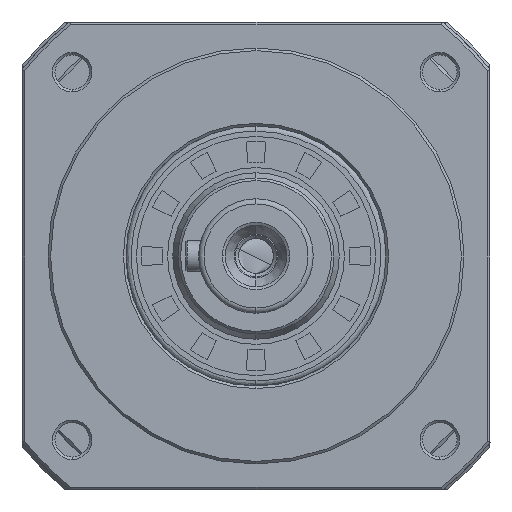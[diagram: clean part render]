
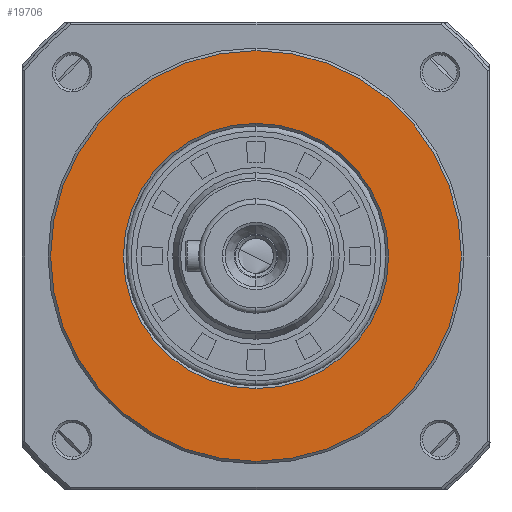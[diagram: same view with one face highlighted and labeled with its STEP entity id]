
A CAD part, left-side view. The second image highlights one B-rep face of the part: STEP entity #19706.
In plain terms, the highlighted planar face has unit normal (-1, 0, 0).
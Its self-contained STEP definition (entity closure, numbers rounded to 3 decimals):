
#513 = DIRECTION ( 'NONE',  ( 1., 0., 0. ) ) ;
#1174 = ORIENTED_EDGE ( 'NONE', *, *, #41199, .F. ) ;
#1571 = EDGE_CURVE ( 'NONE', #35148, #30651, #15567, .T. ) ;
#1646 = AXIS2_PLACEMENT_3D ( 'NONE', #51004, #43278, #12940 ) ;
#3337 = EDGE_LOOP ( 'NONE', ( #28568, #93845 ) ) ;
#4349 = FACE_OUTER_BOUND ( 'NONE', #56571, .T. ) ;
#6502 = EDGE_CURVE ( 'NONE', #85295, #100066, #36539, .T. ) ;
#7262 = AXIS2_PLACEMENT_3D ( 'NONE', #84703, #44868, #14886 ) ;
#12940 = DIRECTION ( 'NONE',  ( 0., 0., -1. ) ) ;
#14886 = DIRECTION ( 'NONE',  ( 0., 0., -1. ) ) ;
#15567 = CIRCLE ( 'NONE', #97291, 39.5 ) ;
#19359 = CIRCLE ( 'NONE', #7262, 39.5 ) ;
#19465 = CARTESIAN_POINT ( 'NONE',  ( 0., 0., -25.5 ) ) ;
#19706 = ADVANCED_FACE ( 'NONE', ( #22478, #4349 ), #41962, .F. ) ;
#22213 = DIRECTION ( 'NONE',  ( 0., 0., 1. ) ) ;
#22478 = FACE_BOUND ( 'NONE', #3337, .T. ) ;
#26704 = ORIENTED_EDGE ( 'NONE', *, *, #1571, .F. ) ;
#28568 = ORIENTED_EDGE ( 'NONE', *, *, #6502, .T. ) ;
#29376 = CIRCLE ( 'NONE', #30554, 25.5 ) ;
#30554 = AXIS2_PLACEMENT_3D ( 'NONE', #76553, #30610, #22213 ) ;
#30610 = DIRECTION ( 'NONE',  ( 1., 0., 0. ) ) ;
#30651 = VERTEX_POINT ( 'NONE', #89535 ) ;
#35148 = VERTEX_POINT ( 'NONE', #70008 ) ;
#36539 = CIRCLE ( 'NONE', #91097, 25.5 ) ;
#41199 = EDGE_CURVE ( 'NONE', #30651, #35148, #19359, .T. ) ;
#41308 = CARTESIAN_POINT ( 'NONE',  ( 0., 0., 0. ) ) ;
#41962 = PLANE ( 'NONE',  #1646 ) ;
#42291 = DIRECTION ( 'NONE',  ( 0., 0., -1. ) ) ;
#43278 = DIRECTION ( 'NONE',  ( 1., 0., 0. ) ) ;
#43793 = CARTESIAN_POINT ( 'NONE',  ( 0., 0., 25.5 ) ) ;
#44868 = DIRECTION ( 'NONE',  ( 1., 0., 0. ) ) ;
#51004 = CARTESIAN_POINT ( 'NONE',  ( 0., -39.974, 39.974 ) ) ;
#54162 = CARTESIAN_POINT ( 'NONE',  ( 0., 0., 0. ) ) ;
#56571 = EDGE_LOOP ( 'NONE', ( #1174, #26704 ) ) ;
#70008 = CARTESIAN_POINT ( 'NONE',  ( 0., 0., 39.5 ) ) ;
#72376 = DIRECTION ( 'NONE',  ( 1., 0., 0. ) ) ;
#76553 = CARTESIAN_POINT ( 'NONE',  ( 0., 0., 0. ) ) ;
#84703 = CARTESIAN_POINT ( 'NONE',  ( 0., 0., 0. ) ) ;
#85295 = VERTEX_POINT ( 'NONE', #43793 ) ;
#89535 = CARTESIAN_POINT ( 'NONE',  ( 0., 0., -39.5 ) ) ;
#91097 = AXIS2_PLACEMENT_3D ( 'NONE', #54162, #513, #100079 ) ;
#93845 = ORIENTED_EDGE ( 'NONE', *, *, #95090, .T. ) ;
#95090 = EDGE_CURVE ( 'NONE', #100066, #85295, #29376, .T. ) ;
#97291 = AXIS2_PLACEMENT_3D ( 'NONE', #41308, #72376, #42291 ) ;
#100066 = VERTEX_POINT ( 'NONE', #19465 ) ;
#100079 = DIRECTION ( 'NONE',  ( 0., 0., 1. ) ) ;
